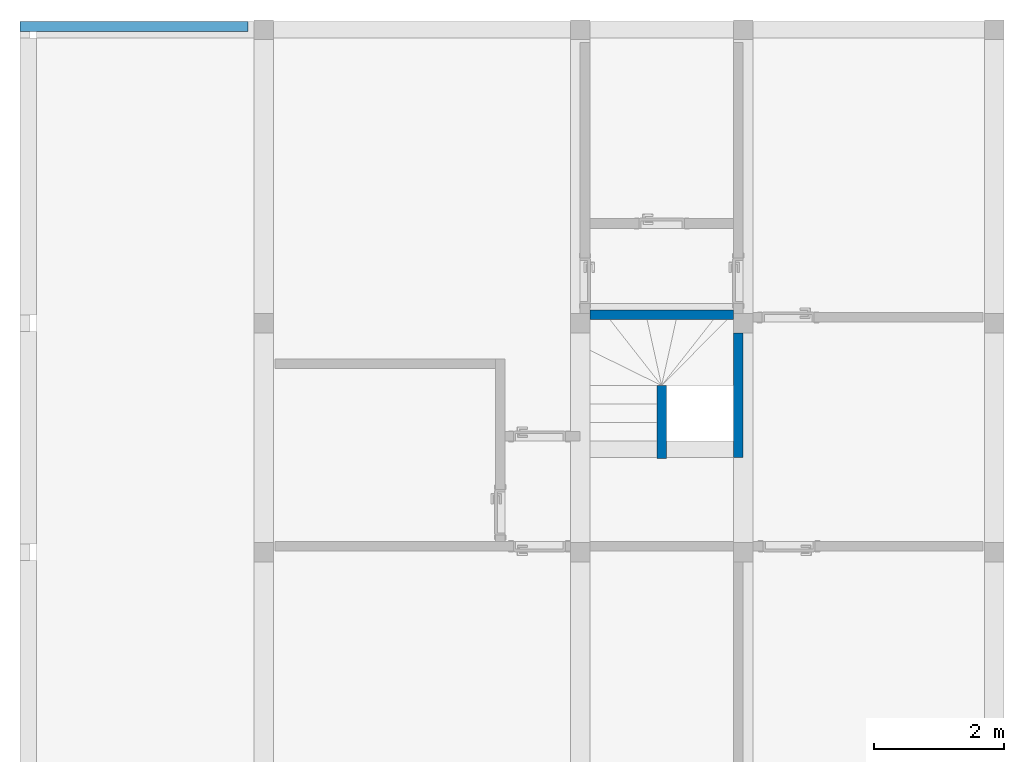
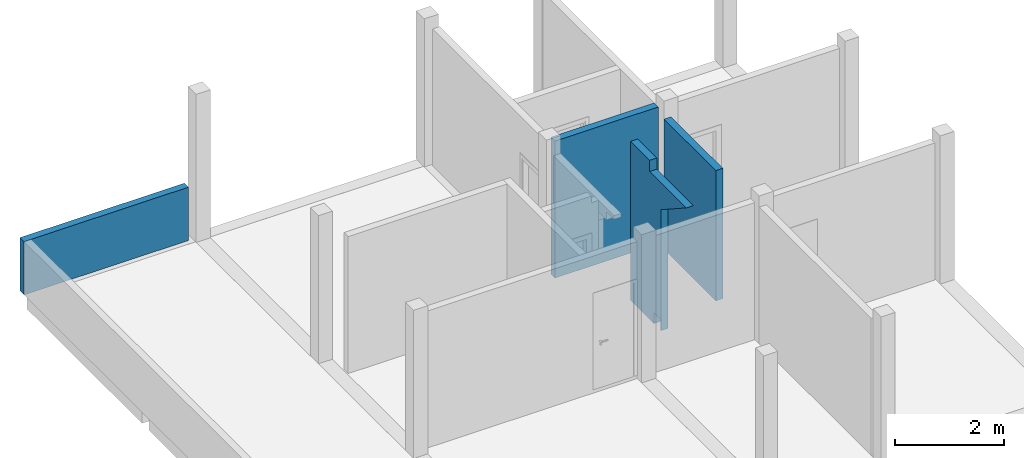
# One storey, part 7 of 11: 4 walls, 2 openings.
"""IFC2X3 building model written with IfcOpenShell, lengths in metres."""

from ifc_helpers import new_model, entity, si_unit, converted_unit, derived_unit, direction, frame, frame_2d, origin, place, context, subcontext, project, spatial, polyline, rectangle, outline, extrude, clip, halfspace, bounded_halfspace, material, layer, layer_set, layer_usage, type_object, element, save


model = new_model("IFC2X3")

# Units and contexts
model_context = context("Model", 3, precision=1e-05, world=origin(), true_north=direction((6.12303176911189e-17, 1.0)))
context_of_model = context(None, 3, precision=1e-05, world=origin(), true_north=direction((6.12303176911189e-17, 1.0)))
body_context = subcontext(model_context, "Body", "Model", "MODEL_VIEW")
ifc_project = project(units=[si_unit("LENGTHUNIT", "METRE"), si_unit("AREAUNIT", "SQUARE_METRE"), si_unit("VOLUMEUNIT", "CUBIC_METRE"), converted_unit("PLANEANGLEUNIT", "DEGREE", entity("IfcRatioMeasure", 0.0174532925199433), si_unit("PLANEANGLEUNIT", "RADIAN"), dimensions=[0, 0, 0, 0, 0, 0, 0]), si_unit("MASSUNIT", "GRAM", prefix="KILO"), si_unit("TIMEUNIT", "SECOND"), si_unit("FREQUENCYUNIT", "HERTZ"), si_unit("THERMODYNAMICTEMPERATUREUNIT", "DEGREE_CELSIUS"), derived_unit("THERMALTRANSMITTANCEUNIT", [(si_unit("MASSUNIT", "GRAM", prefix="KILO"), 1), (si_unit("THERMODYNAMICTEMPERATUREUNIT", "KELVIN"), -1), (si_unit("TIMEUNIT", "SECOND"), -3)]), derived_unit("VOLUMETRICFLOWRATEUNIT", [(si_unit("LENGTHUNIT", "METRE"), 3), (si_unit("TIMEUNIT", "SECOND"), -1)]), si_unit("ELECTRICCURRENTUNIT", "AMPERE"), si_unit("ELECTRICVOLTAGEUNIT", "VOLT"), si_unit("POWERUNIT", "WATT"), si_unit("FORCEUNIT", "NEWTON", prefix="KILO"), si_unit("ILLUMINANCEUNIT", "LUX"), si_unit("LUMINOUSFLUXUNIT", "LUMEN"), si_unit("LUMINOUSINTENSITYUNIT", "CANDELA"), si_unit("PRESSUREUNIT", "PASCAL")], contexts=[model_context, context_of_model])

# Site, building, storey
site_placement = place(None, origin())
site = spatial("IfcSite", under=ifc_project, at=site_placement, Name="Default", CompositionType="ELEMENT")
building_placement = place(site_placement, origin())
building = spatial("IfcBuilding", under=site, at=building_placement, CompositionType="ELEMENT")
storey_placement = place(building_placement, frame((0.0, 0.0, 3.45)))
storey = spatial("IfcBuildingStorey", under=building, at=storey_placement, Name="02.ES.PLANTA PRIMERA", CompositionType="ELEMENT", Elevation=3.45)

# Wall, openings
ifc_material = material(Name="Muro por defecto")
ifc_layer = layer(ifc_material, 0.15)
ifc_layer_set = layer_set([ifc_layer], Name="Muro básico:Por defecto - 15 cm")
ifc_layer_usage_1 = layer_usage(ifc_layer_set, "AXIS2", "NEGATIVE", 0.075)
wall_type = type_object("IfcWallType", Name="Muro básico:Por defecto - 15 cm", PredefinedType="STANDARD", material=ifc_layer_set)
wall_1_placement = place(storey_placement, frame((10.315, 5.58840980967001, -0.250000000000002), z_axis=(0.0, 0.0, 1.0), x_axis=(0.0, 1.0, 0.0)))
wall_1 = element("IfcWallStandardCase", 1, at=wall_1_placement, inside=storey, type_object=wall_type, material=ifc_layer_usage_1, Name="Muro básico:Por defecto - 15 cm", ObjectType="Muro básico:Por defecto - 15 cm", context=body_context, shape_type="Clipping", body=[
    clip(clip(clip(clip(extrude(rectangle(XDim=2.05565579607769, YDim=0.150000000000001, at=frame_2d((1.02782789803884, -2.98372437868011e-16), x_axis=(-1.0, 0.0))), origin(), (0.0, 0.0, 1.0), 3.58), bounded_halfspace(frame((1.35159019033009, 0.0749999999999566, 3.33), z_axis=(-1.0, 0.0, 0.0), x_axis=(0.0, 1.0, 0.0)), False, frame((1.35159019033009, 0.0749999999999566, 3.33), z_axis=(-1.0, 0.0, 0.0), x_axis=(0.0, 1.0, 0.0)), polyline([(0.0, 0.0), (-0.149999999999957, 0.0), (-0.149999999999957, -0.249999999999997), (0.0, -0.249999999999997), (0.0, 0.0)]))), bounded_halfspace(frame((1.20159019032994, 0.0749999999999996, 0.25), z_axis=(0.0, 0.0, 1.0), x_axis=(0.0, 1.0, 0.0)), True, frame((1.20159019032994, 0.0749999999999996, 0.25), z_axis=(0.0, 0.0, 1.0), x_axis=(0.0, 1.0, 0.0)), polyline([(0.0, 0.0), (0.0, 0.250000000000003), (-0.150000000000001, 0.250000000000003), (-0.150000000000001, 0.0), (0.0, 0.0)]))), halfspace(frame((0.93659019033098, 0.0, 3.58), z_axis=(-0.257896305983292, 0.0, 0.966172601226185), x_axis=(0.0, 1.0, 0.0)), False)), halfspace(frame((0.0, 0.0, 3.33), z_axis=(-0.962648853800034, 0.0, -0.270752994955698), x_axis=(0.0, 1.0, 0.0)), False)),
])
opening_1_placement = place(wall_1_placement, origin())
element("IfcOpeningElement", 2, at=opening_1_placement, cuts=wall_1, Name="Muro básico:Por defecto - 15 cm", ObjectType="Opening", context=body_context, shape_type="SweptSolid", body=[
    extrude(outline(polyline([(-0.344618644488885, -0.0805143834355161), (0.624763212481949, -0.0805143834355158), (-0.280144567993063, 0.161028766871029), (-0.344618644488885, -0.0805143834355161)])), frame((0.624393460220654, 0.0749999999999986, 3.41333333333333), z_axis=(0.0, -1.0, 0.0), x_axis=(-0.966172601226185, 0.0, -0.257896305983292)), (0.0, 0.0, 1.0), 0.15),
])
opening_2_placement = place(wall_1_placement, origin())
element("IfcOpeningElement", 3, at=opening_2_placement, cuts=wall_1, Name="Muro básico:Por defecto - 15 cm", ObjectType="Opening", context=body_context, shape_type="SweptSolid", body=[
    extrude(outline(polyline([(-1.4327668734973, -0.24564256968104), (2.02643840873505, -0.24564256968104), (-0.593671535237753, 0.491285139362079), (-1.4327668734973, -0.24564256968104)])), frame((0.624393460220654, 0.0749999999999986, 2.01725707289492), z_axis=(0.0, -1.0, 0.0), x_axis=(0.270752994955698, 0.0, -0.962648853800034)), (0.0, 0.0, 1.0), 0.15),
])

# Walls
ifc_layer_usage_2 = layer_usage(ifc_layer_set, "AXIS2", "POSITIVE", -0.075)
wall_2_placement = place(storey_placement, frame((9.215, 8.73000000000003, 0.0)))
element("IfcWallStandardCase", 4, at=wall_2_placement, inside=storey, type_object=wall_type, material=ifc_layer_usage_2, Name="Muro básico:Por defecto - 15 cm", ObjectType="Muro básico:Por defecto - 15 cm", context=body_context, shape_type="SweptSolid", body=[
    extrude(rectangle(XDim=2.19999999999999, YDim=0.150000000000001, at=frame_2d((1.09999999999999, 4.85722573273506e-17), x_axis=(-1.0, 0.0))), origin(), (0.0, 0.0, 1.0), 3.08),
])
ifc_layer_usage_3 = layer_usage(ifc_layer_set, "AXIS2", "NEGATIVE", 0.075)
wall_3_placement = place(storey_placement, frame((11.49, 8.45000000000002, 0.0), z_axis=(0.0, 0.0, 1.0), x_axis=(0.0, -1.0, 0.0)))
element("IfcWallStandardCase", 5, at=wall_3_placement, inside=storey, type_object=wall_type, material=ifc_layer_usage_3, Name="Muro básico:Por defecto - 15 cm", ObjectType="Muro básico:Por defecto - 15 cm", context=body_context, shape_type="Clipping", body=[
    clip(extrude(rectangle(XDim=1.91000000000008, YDim=0.150000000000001, at=frame_2d((0.955000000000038, 0.0), x_axis=(-1.0, 0.0))), origin(), (0.0, 0.0, 1.0), 2.93), bounded_halfspace(frame((0.0, -0.0750000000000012, 2.93), z_axis=(0.0, 0.0, -1.0), x_axis=(1.0, 0.0, 0.0)), True, frame((0.0, -0.0750000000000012, 2.93), z_axis=(0.0, 0.0, -1.0), x_axis=(1.0, 0.0, 0.0)), polyline([(0.0, 0.0), (0.0, -0.150000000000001), (1.91000000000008, -0.150000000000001), (1.91000000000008, 0.0), (0.0, 0.0)]))),
])
ifc_layer_usage_4 = layer_usage(ifc_layer_set, "AXIS2", "NEGATIVE", 0.075)
wall_4_placement = place(storey_placement, frame((3.97499999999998, 13.15, 0.0), z_axis=(0.0, 0.0, 1.0), x_axis=(-1.0, 0.0, 0.0)))
element("IfcWallStandardCase", 6, at=wall_4_placement, inside=storey, type_object=wall_type, material=ifc_layer_usage_4, Name="Muro básico:Por defecto - 15 cm", ObjectType="Muro básico:Por defecto - 15 cm", context=body_context, shape_type="SweptSolid", body=[
    extrude(rectangle(XDim=3.49999999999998, YDim=0.150000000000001, at=frame_2d((1.74999999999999, 0.0), x_axis=(-1.0, 0.0))), origin(), (0.0, 0.0, 1.0), 1.2),
])

save(model, "model.ifc")
